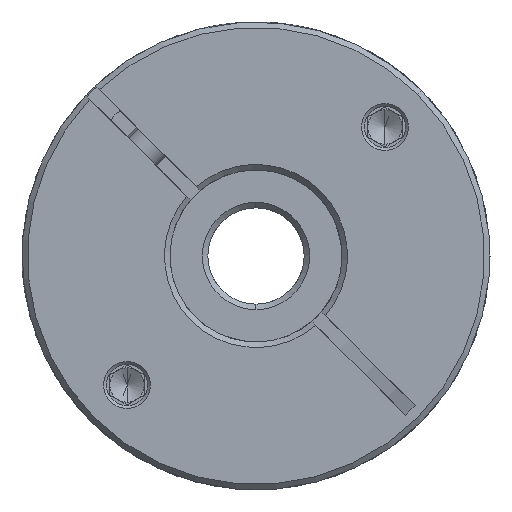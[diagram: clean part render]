
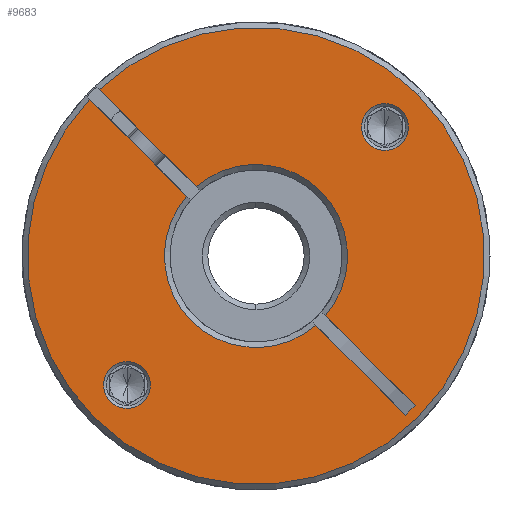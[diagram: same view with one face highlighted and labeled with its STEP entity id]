
A CAD part, front view. The second image highlights one B-rep face of the part: STEP entity #9683.
In plain terms, the highlighted planar face has unit normal (0, -1, 0).
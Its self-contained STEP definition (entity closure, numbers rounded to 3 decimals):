
#239 = DIRECTION ( 'NONE',  ( 0.707, 0., 0.707 ) ) ;
#507 = DIRECTION ( 'NONE',  ( 0.707, 0., 0.707 ) ) ;
#512 = AXIS2_PLACEMENT_3D ( 'NONE', #12244, #13968, #18890 ) ;
#618 = AXIS2_PLACEMENT_3D ( 'NONE', #16311, #19649, #11620 ) ;
#638 = AXIS2_PLACEMENT_3D ( 'NONE', #18497, #11807, #1856 ) ;
#879 = DIRECTION ( 'NONE',  ( 0.707, 0., -0.707 ) ) ;
#1149 = DIRECTION ( 'NONE',  ( 0.707, 0., -0.707 ) ) ;
#1707 = CARTESIAN_POINT ( 'NONE',  ( -2.735, -67.045, 68. ) ) ;
#1709 = ORIENTED_EDGE ( 'NONE', *, *, #13675, .T. ) ;
#1815 = AXIS2_PLACEMENT_3D ( 'NONE', #13526, #8548, #239 ) ;
#1856 = DIRECTION ( 'NONE',  ( 0.707, 0., 0.707 ) ) ;
#2161 = DIRECTION ( 'NONE',  ( 0.707, 0., -0.707 ) ) ;
#2190 = DIRECTION ( 'NONE',  ( 0., 1., 0. ) ) ;
#2238 = CARTESIAN_POINT ( 'NONE',  ( 18.988, -67.045, 44.862 ) ) ;
#2567 = CARTESIAN_POINT ( 'NONE',  ( 18.988, -67.045, 44.862 ) ) ;
#2809 = ORIENTED_EDGE ( 'NONE', *, *, #3409, .T. ) ;
#2889 = EDGE_CURVE ( 'NONE', #18602, #9646, #17332, .T. ) ;
#3304 = CIRCLE ( 'NONE', #19820, 3.4 ) ;
#3409 = EDGE_CURVE ( 'NONE', #20475, #3693, #15293, .T. ) ;
#3569 = FACE_BOUND ( 'NONE', #10159, .T. ) ;
#3693 = VERTEX_POINT ( 'NONE', #14093 ) ;
#3931 = CARTESIAN_POINT ( 'NONE',  ( -2.735, -67.045, 68. ) ) ;
#4321 = CARTESIAN_POINT ( 'NONE',  ( -23.878, -67.045, 46.858 ) ) ;
#4395 = EDGE_CURVE ( 'NONE', #5846, #19112, #18849, .T. ) ;
#4628 = CARTESIAN_POINT ( 'NONE',  ( -3.442, -67.045, 67.293 ) ) ;
#4746 = CARTESIAN_POINT ( 'NONE',  ( 20.402, -67.045, 46.277 ) ) ;
#5063 = VERTEX_POINT ( 'NONE', #18619 ) ;
#5343 = CARTESIAN_POINT ( 'NONE',  ( -19.069, -67.045, 51.666 ) ) ;
#5738 = EDGE_CURVE ( 'NONE', #5063, #9646, #13364, .T. ) ;
#5846 = VERTEX_POINT ( 'NONE', #9867 ) ;
#6053 = CARTESIAN_POINT ( 'NONE',  ( -2.028, -67.045, 68.707 ) ) ;
#6084 = CIRCLE ( 'NONE', #20835, 13.3 ) ;
#6290 = CIRCLE ( 'NONE', #638, 33.2 ) ;
#6401 = EDGE_CURVE ( 'NONE', #5846, #20475, #11567, .T. ) ;
#6787 = VERTEX_POINT ( 'NONE', #5343 ) ;
#6824 = DIRECTION ( 'NONE',  ( 0., 1., 0. ) ) ;
#7187 = CARTESIAN_POINT ( 'NONE',  ( -11.406, -67.045, 78.085 ) ) ;
#7234 = EDGE_CURVE ( 'NONE', #9014, #14770, #8084, .T. ) ;
#8005 = FACE_BOUND ( 'NONE', #12005, .T. ) ;
#8084 = LINE ( 'NONE', #6053, #8849 ) ;
#8120 = EDGE_CURVE ( 'NONE', #15601, #17253, #17331, .T. ) ;
#8189 = DIRECTION ( 'NONE',  ( 0.707, 0., 0.707 ) ) ;
#8269 = AXIS2_PLACEMENT_3D ( 'NONE', #18222, #6824, #8540 ) ;
#8323 = ORIENTED_EDGE ( 'NONE', *, *, #18790, .T. ) ;
#8540 = DIRECTION ( 'NONE',  ( 0.707, 0., 0.707 ) ) ;
#8548 = DIRECTION ( 'NONE',  ( 0., -1., 0. ) ) ;
#8849 = VECTOR ( 'NONE', #879, 1000. ) ;
#8954 = CARTESIAN_POINT ( 'NONE',  ( -2.028, -67.045, 68.707 ) ) ;
#9014 = VERTEX_POINT ( 'NONE', #18739 ) ;
#9159 = EDGE_CURVE ( 'NONE', #16232, #6787, #14212, .T. ) ;
#9220 = DIRECTION ( 'NONE',  ( 0., 1., 0. ) ) ;
#9338 = DIRECTION ( 'NONE',  ( -0.707, 0., -0.707 ) ) ;
#9646 = VERTEX_POINT ( 'NONE', #2238 ) ;
#9683 = ADVANCED_FACE ( 'NONE', ( #8005, #3569, #18074 ), #14403, .T. ) ;
#9867 = CARTESIAN_POINT ( 'NONE',  ( -26.908, -67.045, 90.758 ) ) ;
#10159 = EDGE_LOOP ( 'NONE', ( #18092, #14281 ) ) ;
#10170 = LINE ( 'NONE', #8954, #11472 ) ;
#10330 = CARTESIAN_POINT ( 'NONE',  ( -26.211, -67.045, 44.524 ) ) ;
#10767 = EDGE_CURVE ( 'NONE', #6787, #16232, #13362, .T. ) ;
#10805 = ORIENTED_EDGE ( 'NONE', *, *, #16753, .T. ) ;
#10882 = DIRECTION ( 'NONE',  ( 0.707, 0., 0.707 ) ) ;
#11178 = VECTOR ( 'NONE', #9338, 1000. ) ;
#11472 = VECTOR ( 'NONE', #12546, 1000. ) ;
#11567 = CIRCLE ( 'NONE', #512, 33.2 ) ;
#11620 = DIRECTION ( 'NONE',  ( 0.707, 0., 0.707 ) ) ;
#11807 = DIRECTION ( 'NONE',  ( 0., -1., 0. ) ) ;
#11889 = DIRECTION ( 'NONE',  ( 0., 1., 0. ) ) ;
#12005 = EDGE_LOOP ( 'NONE', ( #10805, #13704 ) ) ;
#12126 = CARTESIAN_POINT ( 'NONE',  ( 18.407, -67.045, 89.142 ) ) ;
#12176 = ORIENTED_EDGE ( 'NONE', *, *, #6401, .T. ) ;
#12244 = CARTESIAN_POINT ( 'NONE',  ( -2.735, -67.045, 68. ) ) ;
#12329 = CARTESIAN_POINT ( 'NONE',  ( 6.669, -67.045, 77.405 ) ) ;
#12407 = AXIS2_PLACEMENT_3D ( 'NONE', #16075, #17590, #19268 ) ;
#12546 = DIRECTION ( 'NONE',  ( 0.707, 0., -0.707 ) ) ;
#12592 = CARTESIAN_POINT ( 'NONE',  ( -21.473, -67.045, 49.262 ) ) ;
#12662 = CARTESIAN_POINT ( 'NONE',  ( 13.599, -67.045, 84.334 ) ) ;
#12737 = ORIENTED_EDGE ( 'NONE', *, *, #5738, .F. ) ;
#12953 = EDGE_CURVE ( 'NONE', #17253, #18602, #10170, .T. ) ;
#13362 = CIRCLE ( 'NONE', #8269, 3.4 ) ;
#13364 = LINE ( 'NONE', #4628, #13624 ) ;
#13526 = CARTESIAN_POINT ( 'NONE',  ( -2.735, -67.045, 68. ) ) ;
#13624 = VECTOR ( 'NONE', #1149, 1000. ) ;
#13626 = VERTEX_POINT ( 'NONE', #12662 ) ;
#13675 = EDGE_CURVE ( 'NONE', #3693, #9014, #6290, .T. ) ;
#13704 = ORIENTED_EDGE ( 'NONE', *, *, #18256, .T. ) ;
#13866 = CIRCLE ( 'NONE', #15796, 3.4 ) ;
#13933 = ORIENTED_EDGE ( 'NONE', *, *, #7234, .T. ) ;
#13968 = DIRECTION ( 'NONE',  ( 0., -1., 0. ) ) ;
#14093 = CARTESIAN_POINT ( 'NONE',  ( 20.741, -67.045, 91.476 ) ) ;
#14212 = CIRCLE ( 'NONE', #14464, 3.4 ) ;
#14281 = ORIENTED_EDGE ( 'NONE', *, *, #9159, .T. ) ;
#14297 = DIRECTION ( 'NONE',  ( 0., 1., 0. ) ) ;
#14345 = CARTESIAN_POINT ( 'NONE',  ( -12.82, -67.045, 76.671 ) ) ;
#14403 = PLANE ( 'NONE',  #12407 ) ;
#14464 = AXIS2_PLACEMENT_3D ( 'NONE', #12592, #9220, #10882 ) ;
#14501 = ORIENTED_EDGE ( 'NONE', *, *, #12953, .T. ) ;
#14740 = VECTOR ( 'NONE', #2161, 1000. ) ;
#14765 = DIRECTION ( 'NONE',  ( 0., 1., 0. ) ) ;
#14770 = VERTEX_POINT ( 'NONE', #7187 ) ;
#14904 = ORIENTED_EDGE ( 'NONE', *, *, #4395, .F. ) ;
#14983 = ORIENTED_EDGE ( 'NONE', *, *, #15856, .T. ) ;
#15186 = DIRECTION ( 'NONE',  ( 0.707, 0., 0.707 ) ) ;
#15293 = CIRCLE ( 'NONE', #1815, 33.2 ) ;
#15564 = CARTESIAN_POINT ( 'NONE',  ( -3.442, -67.045, 67.293 ) ) ;
#15601 = VERTEX_POINT ( 'NONE', #12329 ) ;
#15738 = CIRCLE ( 'NONE', #618, 13.3 ) ;
#15796 = AXIS2_PLACEMENT_3D ( 'NONE', #19354, #14297, #17762 ) ;
#15856 = EDGE_CURVE ( 'NONE', #5063, #19112, #15738, .T. ) ;
#16075 = CARTESIAN_POINT ( 'NONE',  ( -2.735, -67.045, 68. ) ) ;
#16232 = VERTEX_POINT ( 'NONE', #4321 ) ;
#16311 = CARTESIAN_POINT ( 'NONE',  ( -2.735, -67.045, 68. ) ) ;
#16753 = EDGE_CURVE ( 'NONE', #18837, #13626, #3304, .T. ) ;
#16814 = CARTESIAN_POINT ( 'NONE',  ( 7.35, -67.045, 59.329 ) ) ;
#17253 = VERTEX_POINT ( 'NONE', #16814 ) ;
#17331 = CIRCLE ( 'NONE', #20857, 13.3 ) ;
#17332 = LINE ( 'NONE', #2567, #11178 ) ;
#17590 = DIRECTION ( 'NONE',  ( 0., -1., 0. ) ) ;
#17762 = DIRECTION ( 'NONE',  ( 0.707, 0., 0.707 ) ) ;
#18074 = FACE_OUTER_BOUND ( 'NONE', #18216, .T. ) ;
#18087 = CARTESIAN_POINT ( 'NONE',  ( 16.003, -67.045, 86.738 ) ) ;
#18092 = ORIENTED_EDGE ( 'NONE', *, *, #10767, .T. ) ;
#18216 = EDGE_LOOP ( 'NONE', ( #14904, #12176, #2809, #1709, #13933, #8323, #19814, #14501, #20808, #12737, #14983 ) ) ;
#18222 = CARTESIAN_POINT ( 'NONE',  ( -21.473, -67.045, 49.262 ) ) ;
#18256 = EDGE_CURVE ( 'NONE', #13626, #18837, #13866, .T. ) ;
#18497 = CARTESIAN_POINT ( 'NONE',  ( -2.735, -67.045, 68. ) ) ;
#18602 = VERTEX_POINT ( 'NONE', #4746 ) ;
#18619 = CARTESIAN_POINT ( 'NONE',  ( 5.936, -67.045, 57.915 ) ) ;
#18739 = CARTESIAN_POINT ( 'NONE',  ( -25.493, -67.045, 92.172 ) ) ;
#18790 = EDGE_CURVE ( 'NONE', #14770, #15601, #6084, .T. ) ;
#18837 = VERTEX_POINT ( 'NONE', #12126 ) ;
#18849 = LINE ( 'NONE', #15564, #14740 ) ;
#18890 = DIRECTION ( 'NONE',  ( 0.707, 0., 0.707 ) ) ;
#19112 = VERTEX_POINT ( 'NONE', #14345 ) ;
#19268 = DIRECTION ( 'NONE',  ( 0.707, 0., 0.707 ) ) ;
#19354 = CARTESIAN_POINT ( 'NONE',  ( 16.003, -67.045, 86.738 ) ) ;
#19649 = DIRECTION ( 'NONE',  ( 0., 1., 0. ) ) ;
#19814 = ORIENTED_EDGE ( 'NONE', *, *, #8120, .T. ) ;
#19820 = AXIS2_PLACEMENT_3D ( 'NONE', #18087, #14765, #8189 ) ;
#20475 = VERTEX_POINT ( 'NONE', #10330 ) ;
#20808 = ORIENTED_EDGE ( 'NONE', *, *, #2889, .T. ) ;
#20835 = AXIS2_PLACEMENT_3D ( 'NONE', #3931, #2190, #507 ) ;
#20857 = AXIS2_PLACEMENT_3D ( 'NONE', #1707, #11889, #15186 ) ;
